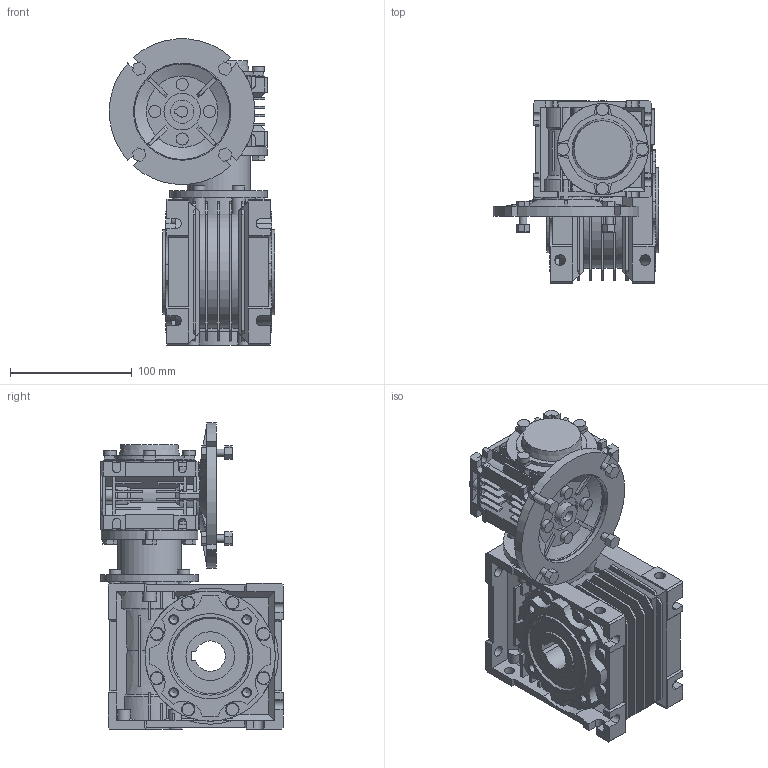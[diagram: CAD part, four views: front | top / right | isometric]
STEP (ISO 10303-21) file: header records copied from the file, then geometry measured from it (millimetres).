
FILE_DESCRIPTION(/* description */ ('STEP AP214'),/* implementation_level */ '2;1');
FILE_NAME(/* name */ 'NMRV-NMRV030-050100 (10x10)51125NO11NO00NO---(--------)',/* time_stamp */ '2024-10-22T10:37:08+02:00',/* author */ ('License CC BY-ND 4.0'),/* organization */ ('CADENAS'),/* preprocessor_version */ 'ST-DEVELOPER v19.3',/* originating_system */ 'PARTsolutions',/* authorisation */ ' ');
FILE_SCHEMA (('AUTOMOTIVE_DESIGN {1 0 10303 214 3 1 1}'));
Length unit declared in the file: millimetre
Products named in the file (13): NMRV-NMRV030-050100 (10x10)51125NO11NO00NO---(--------); 030-050100 (10x10)5114125No11No00NO---(--------)-d; 030-050100 (10x10)51125No11No00NO---d1; 030-050100 (10x10)51125No11No00T0561-d1; Gear unit 50; 050-25 (92)alc-n; VB 050-14 (14); Gear unit 30; 030-14 (63)alc-n; FT 030-050; Hollow shaft 30; VB 030-09 (9); 30-56 B5
Assembly tree (13 placements, depth 2):
  NMRV-NMRV030-050100 (10x10)51125NO11NO00NO---(--------)
    030-050100 (10x10)5114125No11No00NO---(--------)-d
    030-050100 (10x10)51125No11No00NO---d1
    030-050100 (10x10)51125No11No00T0561-d1  x2
    Gear unit 50
    050-25 (92)alc-n
    VB 050-14 (14)
    Gear unit 30
    030-14 (63)alc-n
    FT 030-050
    Hollow shaft 30
    VB 030-09 (9)
    30-56 B5
Bounding box: 135.8 x 150 x 251.8 mm (x, y, z)
Volume: 1549857.7 mm3; surface area: 365759.7 mm2
Topology: 9 solids, 21 shells, 1712 faces, 4534 edges, 2958 vertices
Faces by surface type: plane 1270, cylinder 348, cone 92, torus 2
Full cylindrical faces by diameter (mm): 3.545 x3, 3.775 x3, 4.65 x3, 4.917 x8, 5.55 x4, 6 x8, 6.647 x8, 8.8 x8, 10 x20, 16 x1, 19 x2, 24.8 x2, 28 x2, 30 x2, 34 x1, 37 x1, 38 x1, 40 x2, 47 x1, 52 x1, 55 x4, 70 x2, 75 x1, 78.5 x1, 80 x2, 107 x1
Entity records: 63948 total; most frequent: CARTESIAN_POINT 9691, ORIENTED_EDGE 8726, DIRECTION 8623, EDGE_CURVE 4363, LINE 3163, VECTOR 3163, VERTEX_POINT 2935, AXIS2_PLACEMENT_3D 2730
